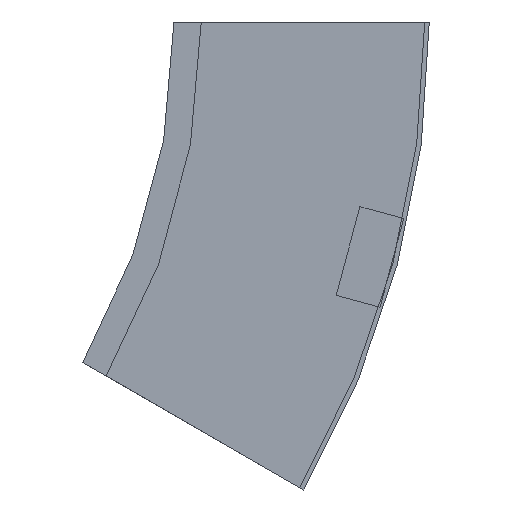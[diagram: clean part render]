
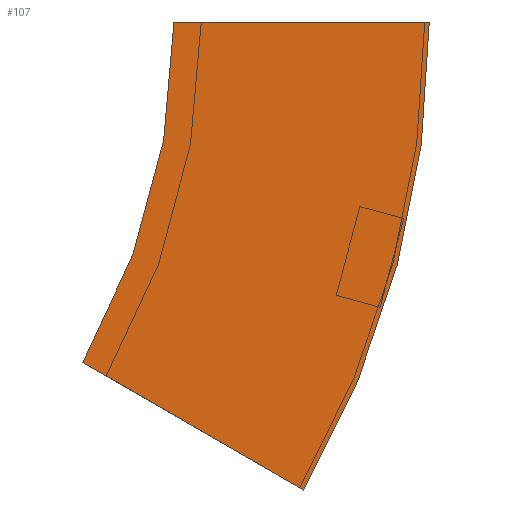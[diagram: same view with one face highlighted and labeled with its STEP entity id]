
A CAD part, left-side view. The second image highlights one B-rep face of the part: STEP entity #107.
In plain terms, the highlighted planar face has unit normal (-1, 0, 0) as drawn and (1, 0, 0) by its records, which use the part's own axes.
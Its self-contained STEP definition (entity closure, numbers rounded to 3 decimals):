
#9 = LINE ( 'NONE', #91, #163 ) ;
#12 = VERTEX_POINT ( 'NONE', #540 ) ;
#28 = ORIENTED_EDGE ( 'NONE', *, *, #233, .T. ) ;
#29 = LINE ( 'NONE', #78, #373 ) ;
#37 = CARTESIAN_POINT ( 'NONE',  ( 0., 300., 0. ) ) ;
#44 = DIRECTION ( 'NONE',  ( 0., -1., 0. ) ) ;
#52 = EDGE_CURVE ( 'NONE', #455, #534, #9, .T. ) ;
#62 = AXIS2_PLACEMENT_3D ( 'NONE', #126, #561, #252 ) ;
#67 = DIRECTION ( 'NONE',  ( -1., 0., 0. ) ) ;
#77 = CARTESIAN_POINT ( 'NONE',  ( 0., -112.5, 0. ) ) ;
#78 = CARTESIAN_POINT ( 'NONE',  ( 0., -57.235, -206.25 ) ) ;
#91 = CARTESIAN_POINT ( 'NONE',  ( 0., -112.5, 0. ) ) ;
#107 = ADVANCED_FACE ( 'NONE', ( #374 ), #114, .F. ) ;
#114 = PLANE ( 'NONE',  #322 ) ;
#126 = CARTESIAN_POINT ( 'NONE',  ( 0., 300., 0. ) ) ;
#163 = VECTOR ( 'NONE', #260, 1000. ) ;
#188 = EDGE_CURVE ( 'NONE', #534, #366, #411, .T. ) ;
#195 = EDGE_CURVE ( 'NONE', #455, #12, #368, .T. ) ;
#196 = EDGE_LOOP ( 'NONE', ( #528, #433, #206, #28 ) ) ;
#199 = CARTESIAN_POINT ( 'NONE',  ( 0., -112.5, 0. ) ) ;
#205 = CARTESIAN_POINT ( 'NONE',  ( 0., 40.192, -150. ) ) ;
#206 = ORIENTED_EDGE ( 'NONE', *, *, #195, .T. ) ;
#233 = EDGE_CURVE ( 'NONE', #12, #366, #29, .T. ) ;
#252 = DIRECTION ( 'NONE',  ( 0., -1., 0. ) ) ;
#260 = DIRECTION ( 'NONE',  ( 0., 1., 0. ) ) ;
#322 = AXIS2_PLACEMENT_3D ( 'NONE', #199, #67, #413 ) ;
#333 = DIRECTION ( 'NONE',  ( 0., 0.866, 0.5 ) ) ;
#366 = VERTEX_POINT ( 'NONE', #205 ) ;
#368 = CIRCLE ( 'NONE', #434, 412.5 ) ;
#373 = VECTOR ( 'NONE', #333, 1000. ) ;
#374 = FACE_OUTER_BOUND ( 'NONE', #196, .T. ) ;
#411 = CIRCLE ( 'NONE', #62, 300. ) ;
#413 = DIRECTION ( 'NONE',  ( 0., 0., 1. ) ) ;
#433 = ORIENTED_EDGE ( 'NONE', *, *, #52, .F. ) ;
#434 = AXIS2_PLACEMENT_3D ( 'NONE', #37, #465, #44 ) ;
#455 = VERTEX_POINT ( 'NONE', #77 ) ;
#465 = DIRECTION ( 'NONE',  ( 1., 0., 0. ) ) ;
#528 = ORIENTED_EDGE ( 'NONE', *, *, #188, .F. ) ;
#531 = CARTESIAN_POINT ( 'NONE',  ( 0., 0., 0. ) ) ;
#534 = VERTEX_POINT ( 'NONE', #531 ) ;
#540 = CARTESIAN_POINT ( 'NONE',  ( 0., -57.235, -206.25 ) ) ;
#561 = DIRECTION ( 'NONE',  ( 1., 0., 0. ) ) ;
